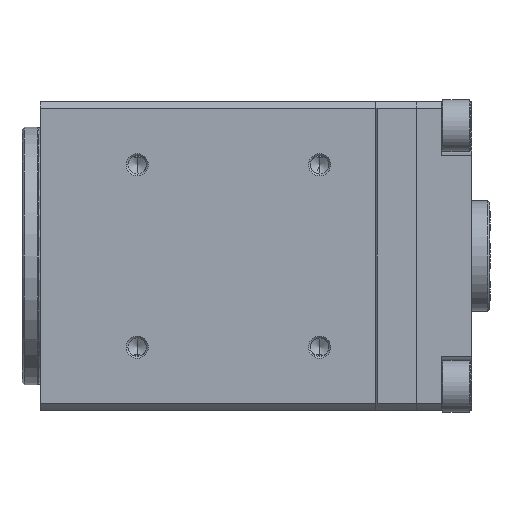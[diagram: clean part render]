
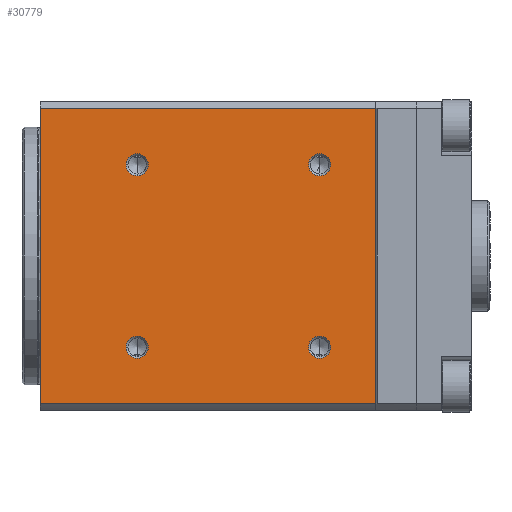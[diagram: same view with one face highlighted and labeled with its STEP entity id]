
A CAD part, left-side view. The second image highlights one B-rep face of the part: STEP entity #30779.
In plain terms, the highlighted planar face has unit normal (-1, 0, 0).
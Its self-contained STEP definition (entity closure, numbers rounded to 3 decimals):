
#846 = ORIENTED_EDGE ( 'NONE', *, *, #30081, .T. ) ;
#868 = ORIENTED_EDGE ( 'NONE', *, *, #30153, .T. ) ;
#1019 = ORIENTED_EDGE ( 'NONE', *, *, #29745, .T. ) ;
#1293 = CIRCLE ( 'NONE', #1300, 1.5 ) ;
#1300 = AXIS2_PLACEMENT_3D ( 'NONE', #44207, #44209, #44211 ) ;
#1507 = CIRCLE ( 'NONE', #1513, 1.5 ) ;
#1513 = AXIS2_PLACEMENT_3D ( 'NONE', #44670, #44672, #44674 ) ;
#2031 = PLANE ( 'NONE',  #22301 ) ;
#2038 = FACE_OUTER_BOUND ( 'NONE', #47985, .T. ) ;
#2039 = FACE_BOUND ( 'NONE', #35786, .T. ) ;
#2041 = FACE_BOUND ( 'NONE', #47993, .T. ) ;
#2042 = CARTESIAN_POINT ( 'NONE',  ( -21., -19., -20. ) ) ;
#2043 = FACE_BOUND ( 'NONE', #47994, .T. ) ;
#2045 = FACE_BOUND ( 'NONE', #47986, .T. ) ;
#2046 = DIRECTION ( 'NONE',  ( -1., 0., 0. ) ) ;
#2047 = DIRECTION ( 'NONE',  ( 0., 0., 1. ) ) ;
#9136 = VERTEX_POINT ( 'NONE', #39462 ) ;
#9137 = VERTEX_POINT ( 'NONE', #39463 ) ;
#11323 = CIRCLE ( 'NONE', #11344, 1.5 ) ;
#11344 = AXIS2_PLACEMENT_3D ( 'NONE', #45766, #45767, #45768 ) ;
#12545 = VERTEX_POINT ( 'NONE', #39831 ) ;
#12547 = VERTEX_POINT ( 'NONE', #39832 ) ;
#21181 = ORIENTED_EDGE ( 'NONE', *, *, #30018, .T. ) ;
#21189 = ORIENTED_EDGE ( 'NONE', *, *, #30079, .T. ) ;
#21191 = ORIENTED_EDGE ( 'NONE', *, *, #30116, .T. ) ;
#21193 = ORIENTED_EDGE ( 'NONE', *, *, #30125, .T. ) ;
#21203 = ORIENTED_EDGE ( 'NONE', *, *, #29824, .T. ) ;
#21372 = VERTEX_POINT ( 'NONE', #39842 ) ;
#21386 = VERTEX_POINT ( 'NONE', #39849 ) ;
#22301 = AXIS2_PLACEMENT_3D ( 'NONE', #2042, #2046, #2047 ) ;
#26077 = CIRCLE ( 'NONE', #26081, 1.5 ) ;
#26081 = AXIS2_PLACEMENT_3D ( 'NONE', #46259, #46260, #46261 ) ;
#28571 = VECTOR ( 'NONE', #45907, 1000. ) ;
#28593 = CIRCLE ( 'NONE', #28595, 1.5 ) ;
#28595 = AXIS2_PLACEMENT_3D ( 'NONE', #45954, #45955, #45956 ) ;
#28596 = CIRCLE ( 'NONE', #28599, 1.5 ) ;
#28599 = AXIS2_PLACEMENT_3D ( 'NONE', #45962, #45963, #45964 ) ;
#28623 = VECTOR ( 'NONE', #46049, 1000. ) ;
#28629 = VECTOR ( 'NONE', #46060, 1000. ) ;
#28647 = CIRCLE ( 'NONE', #28649, 1.5 ) ;
#28649 = AXIS2_PLACEMENT_3D ( 'NONE', #46099, #46100, #46101 ) ;
#28673 = CIRCLE ( 'NONE', #28675, 1.5 ) ;
#28675 = AXIS2_PLACEMENT_3D ( 'NONE', #46186, #46187, #46188 ) ;
#29588 = VECTOR ( 'NONE', #45212, 1000. ) ;
#29745 = EDGE_CURVE ( 'NONE', #47678, #47680, #1293, .T. ) ;
#29824 = EDGE_CURVE ( 'NONE', #47686, #47688, #1507, .T. ) ;
#29886 = EDGE_CURVE ( 'NONE', #12547, #21372, #45152, .T. ) ;
#30018 = EDGE_CURVE ( 'NONE', #47688, #47686, #11323, .T. ) ;
#30063 = EDGE_CURVE ( 'NONE', #12547, #12545, #45905, .T. ) ;
#30079 = EDGE_CURVE ( 'NONE', #47670, #47672, #28593, .T. ) ;
#30081 = EDGE_CURVE ( 'NONE', #9137, #9136, #28596, .T. ) ;
#30116 = EDGE_CURVE ( 'NONE', #12545, #21386, #46041, .T. ) ;
#30125 = EDGE_CURVE ( 'NONE', #21386, #21372, #46058, .T. ) ;
#30153 = EDGE_CURVE ( 'NONE', #47672, #47670, #28647, .T. ) ;
#30178 = EDGE_CURVE ( 'NONE', #9136, #9137, #28673, .T. ) ;
#30209 = EDGE_CURVE ( 'NONE', #47680, #47678, #26077, .T. ) ;
#30779 = ADVANCED_FACE ( 'NONE', ( #2039, #2041, #2043, #2045, #2038 ), #2031, .T. ) ;
#35786 = EDGE_LOOP ( 'NONE', ( #48397, #846 ) ) ;
#37753 = CARTESIAN_POINT ( 'NONE',  ( -21., 13.374, 10.874 ) ) ;
#37756 = CARTESIAN_POINT ( 'NONE',  ( -21., 13.374, 13.874 ) ) ;
#37758 = CARTESIAN_POINT ( 'NONE',  ( -21., -11.374, 13.874 ) ) ;
#37759 = CARTESIAN_POINT ( 'NONE',  ( -21., -11.374, 10.874 ) ) ;
#37762 = CARTESIAN_POINT ( 'NONE',  ( -21., -11.374, -10.874 ) ) ;
#37763 = CARTESIAN_POINT ( 'NONE',  ( -21., -11.374, -13.874 ) ) ;
#39462 = CARTESIAN_POINT ( 'NONE',  ( -21., 13.374, -10.874 ) ) ;
#39463 = CARTESIAN_POINT ( 'NONE',  ( -21., 13.374, -13.874 ) ) ;
#39831 = CARTESIAN_POINT ( 'NONE',  ( -21., -19., -20. ) ) ;
#39832 = CARTESIAN_POINT ( 'NONE',  ( -21., 26.5, -20. ) ) ;
#39842 = CARTESIAN_POINT ( 'NONE',  ( -21., 26.5, 20. ) ) ;
#39849 = CARTESIAN_POINT ( 'NONE',  ( -21., -19., 20. ) ) ;
#44207 = CARTESIAN_POINT ( 'NONE',  ( -21., -11.374, 12.374 ) ) ;
#44209 = DIRECTION ( 'NONE',  ( 1., 0., 0. ) ) ;
#44211 = DIRECTION ( 'NONE',  ( 0., 0., 1. ) ) ;
#44670 = CARTESIAN_POINT ( 'NONE',  ( -21., -11.374, -12.374 ) ) ;
#44672 = DIRECTION ( 'NONE',  ( 1., 0., 0. ) ) ;
#44674 = DIRECTION ( 'NONE',  ( 0., 0., 1. ) ) ;
#45152 = LINE ( 'NONE', #45191, #29588 ) ;
#45191 = CARTESIAN_POINT ( 'NONE',  ( -21., 26.5, 0. ) ) ;
#45212 = DIRECTION ( 'NONE',  ( 0., 0., 1. ) ) ;
#45766 = CARTESIAN_POINT ( 'NONE',  ( -21., -11.374, -12.374 ) ) ;
#45767 = DIRECTION ( 'NONE',  ( 1., 0., 0. ) ) ;
#45768 = DIRECTION ( 'NONE',  ( 0., 0., 1. ) ) ;
#45905 = LINE ( 'NONE', #45906, #28571 ) ;
#45906 = CARTESIAN_POINT ( 'NONE',  ( -21., 3.75, -20. ) ) ;
#45907 = DIRECTION ( 'NONE',  ( 0., -1., 0. ) ) ;
#45954 = CARTESIAN_POINT ( 'NONE',  ( -21., 13.374, 12.374 ) ) ;
#45955 = DIRECTION ( 'NONE',  ( 1., 0., 0. ) ) ;
#45956 = DIRECTION ( 'NONE',  ( 0., 0., 1. ) ) ;
#45962 = CARTESIAN_POINT ( 'NONE',  ( -21., 13.374, -12.374 ) ) ;
#45963 = DIRECTION ( 'NONE',  ( 1., 0., 0. ) ) ;
#45964 = DIRECTION ( 'NONE',  ( 0., 0., 1. ) ) ;
#46041 = LINE ( 'NONE', #46048, #28623 ) ;
#46048 = CARTESIAN_POINT ( 'NONE',  ( -21., -19., 0. ) ) ;
#46049 = DIRECTION ( 'NONE',  ( 0., 0., 1. ) ) ;
#46058 = LINE ( 'NONE', #46059, #28629 ) ;
#46059 = CARTESIAN_POINT ( 'NONE',  ( -21., 3.75, 20. ) ) ;
#46060 = DIRECTION ( 'NONE',  ( 0., 1., 0. ) ) ;
#46099 = CARTESIAN_POINT ( 'NONE',  ( -21., 13.374, 12.374 ) ) ;
#46100 = DIRECTION ( 'NONE',  ( 1., 0., 0. ) ) ;
#46101 = DIRECTION ( 'NONE',  ( 0., 0., 1. ) ) ;
#46186 = CARTESIAN_POINT ( 'NONE',  ( -21., 13.374, -12.374 ) ) ;
#46187 = DIRECTION ( 'NONE',  ( 1., 0., 0. ) ) ;
#46188 = DIRECTION ( 'NONE',  ( 0., 0., 1. ) ) ;
#46259 = CARTESIAN_POINT ( 'NONE',  ( -21., -11.374, 12.374 ) ) ;
#46260 = DIRECTION ( 'NONE',  ( 1., 0., 0. ) ) ;
#46261 = DIRECTION ( 'NONE',  ( 0., 0., 1. ) ) ;
#47670 = VERTEX_POINT ( 'NONE', #37756 ) ;
#47672 = VERTEX_POINT ( 'NONE', #37753 ) ;
#47678 = VERTEX_POINT ( 'NONE', #37758 ) ;
#47680 = VERTEX_POINT ( 'NONE', #37759 ) ;
#47686 = VERTEX_POINT ( 'NONE', #37762 ) ;
#47688 = VERTEX_POINT ( 'NONE', #37763 ) ;
#47985 = EDGE_LOOP ( 'NONE', ( #21191, #21193, #48393, #48403 ) ) ;
#47986 = EDGE_LOOP ( 'NONE', ( #21203, #21181 ) ) ;
#47993 = EDGE_LOOP ( 'NONE', ( #21189, #868 ) ) ;
#47994 = EDGE_LOOP ( 'NONE', ( #1019, #48409 ) ) ;
#48393 = ORIENTED_EDGE ( 'NONE', *, *, #29886, .F. ) ;
#48397 = ORIENTED_EDGE ( 'NONE', *, *, #30178, .T. ) ;
#48403 = ORIENTED_EDGE ( 'NONE', *, *, #30063, .T. ) ;
#48409 = ORIENTED_EDGE ( 'NONE', *, *, #30209, .T. ) ;
